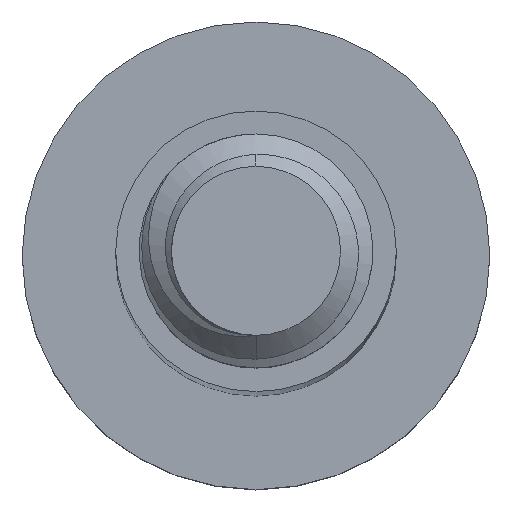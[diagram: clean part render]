
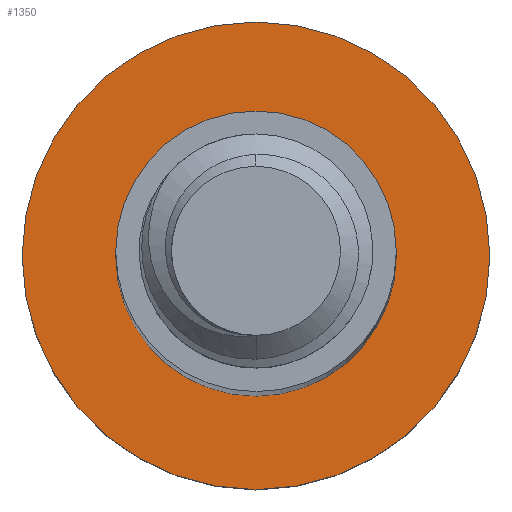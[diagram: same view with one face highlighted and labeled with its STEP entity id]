
A CAD part, top view. The second image highlights one B-rep face of the part: STEP entity #1350.
In plain terms, the highlighted planar face has unit normal (0, 0, 1).
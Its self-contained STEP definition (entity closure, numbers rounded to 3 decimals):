
#45 = AXIS2_PLACEMENT_3D ( 'NONE', #917, #1848, #1622 ) ;
#77 = CARTESIAN_POINT ( 'NONE',  ( 3., 0., -55. ) ) ;
#119 = VERTEX_POINT ( 'NONE', #2209 ) ;
#124 = DIRECTION ( 'NONE',  ( 0., 0., -1. ) ) ;
#162 = ORIENTED_EDGE ( 'NONE', *, *, #1509, .T. ) ;
#188 = EDGE_CURVE ( 'NONE', #119, #2349, #2270, .T. ) ;
#259 = CARTESIAN_POINT ( 'NONE',  ( -3., 0., -55. ) ) ;
#349 = VERTEX_POINT ( 'NONE', #77 ) ;
#386 = DIRECTION ( 'NONE',  ( 0., 0., -1. ) ) ;
#489 = ORIENTED_EDGE ( 'NONE', *, *, #1650, .F. ) ;
#618 = ORIENTED_EDGE ( 'NONE', *, *, #188, .F. ) ;
#713 = CARTESIAN_POINT ( 'NONE',  ( 0., 0., -55. ) ) ;
#833 = EDGE_LOOP ( 'NONE', ( #618, #489 ) ) ;
#849 = CIRCLE ( 'NONE', #2230, 5. ) ;
#850 = CARTESIAN_POINT ( 'NONE',  ( 0., 0., -55. ) ) ;
#917 = CARTESIAN_POINT ( 'NONE',  ( 0., 0., -55. ) ) ;
#932 = AXIS2_PLACEMENT_3D ( 'NONE', #1513, #386, #2233 ) ;
#990 = ORIENTED_EDGE ( 'NONE', *, *, #1068, .T. ) ;
#1068 = EDGE_CURVE ( 'NONE', #1639, #349, #1862, .T. ) ;
#1093 = AXIS2_PLACEMENT_3D ( 'NONE', #850, #124, #2328 ) ;
#1130 = PLANE ( 'NONE',  #932 ) ;
#1187 = CARTESIAN_POINT ( 'NONE',  ( 0., 0., -55. ) ) ;
#1333 = EDGE_LOOP ( 'NONE', ( #990, #162 ) ) ;
#1350 = ADVANCED_FACE ( 'NONE', ( #2034, #1836 ), #1130, .F. ) ;
#1392 = DIRECTION ( 'NONE',  ( -1., 0., 0. ) ) ;
#1509 = EDGE_CURVE ( 'NONE', #349, #1639, #1683, .T. ) ;
#1513 = CARTESIAN_POINT ( 'NONE',  ( 0., 0., -55. ) ) ;
#1622 = DIRECTION ( 'NONE',  ( -1., 0., 0. ) ) ;
#1639 = VERTEX_POINT ( 'NONE', #259 ) ;
#1650 = EDGE_CURVE ( 'NONE', #2349, #119, #849, .T. ) ;
#1683 = CIRCLE ( 'NONE', #2105, 3. ) ;
#1815 = DIRECTION ( 'NONE',  ( -1., 0., 0. ) ) ;
#1836 = FACE_OUTER_BOUND ( 'NONE', #833, .T. ) ;
#1848 = DIRECTION ( 'NONE',  ( 0., 0., -1. ) ) ;
#1862 = CIRCLE ( 'NONE', #45, 3. ) ;
#2034 = FACE_BOUND ( 'NONE', #1333, .T. ) ;
#2105 = AXIS2_PLACEMENT_3D ( 'NONE', #1187, #2319, #1392 ) ;
#2113 = CARTESIAN_POINT ( 'NONE',  ( -5., 0., -55. ) ) ;
#2209 = CARTESIAN_POINT ( 'NONE',  ( 5., 0., -55. ) ) ;
#2230 = AXIS2_PLACEMENT_3D ( 'NONE', #713, #2359, #1815 ) ;
#2233 = DIRECTION ( 'NONE',  ( -1., 0., 0. ) ) ;
#2270 = CIRCLE ( 'NONE', #1093, 5. ) ;
#2319 = DIRECTION ( 'NONE',  ( 0., 0., -1. ) ) ;
#2328 = DIRECTION ( 'NONE',  ( -1., 0., 0. ) ) ;
#2349 = VERTEX_POINT ( 'NONE', #2113 ) ;
#2359 = DIRECTION ( 'NONE',  ( 0., 0., -1. ) ) ;
